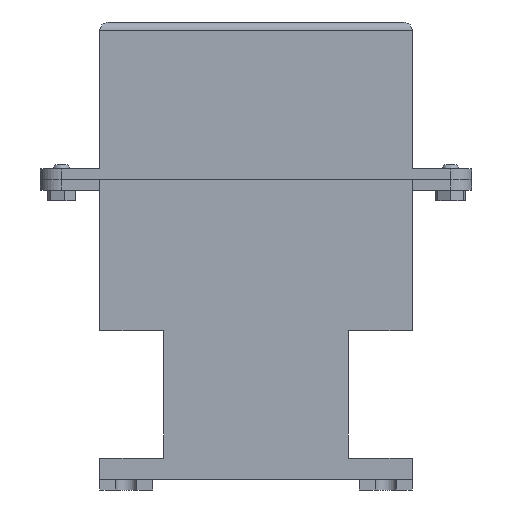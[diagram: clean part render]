
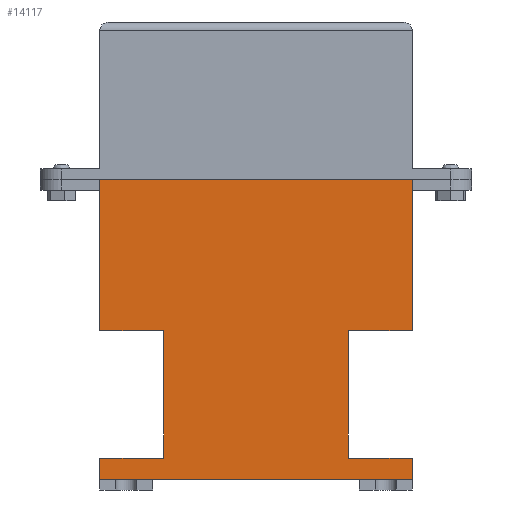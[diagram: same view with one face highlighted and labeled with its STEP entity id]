
A CAD part, left-side view. The second image highlights one B-rep face of the part: STEP entity #14117.
In plain terms, the highlighted planar face has unit normal (-1, 0, 0).
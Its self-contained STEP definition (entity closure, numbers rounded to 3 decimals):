
#1477=FACE_OUTER_BOUND('',#2281,.T.);
#2281=EDGE_LOOP('',(#11947,#11948,#11949,#11950,#11951,#11952,#11953,#11954,
#11955,#11956,#11957,#11958));
#3498=LINE('',#24178,#4982);
#3513=LINE('',#24214,#4997);
#3519=LINE('',#24226,#5003);
#3529=LINE('',#24242,#5013);
#3534=LINE('',#24253,#5018);
#3537=LINE('',#24258,#5021);
#3571=LINE('',#24341,#5055);
#3572=LINE('',#24344,#5056);
#3574=LINE('',#24347,#5058);
#3575=LINE('',#24349,#5059);
#3577=LINE('',#24353,#5061);
#3578=LINE('',#24355,#5062);
#4982=VECTOR('',#16767,10.);
#4997=VECTOR('',#16792,10.);
#5003=VECTOR('',#16802,10.);
#5013=VECTOR('',#16814,10.);
#5018=VECTOR('',#16823,10.);
#5021=VECTOR('',#16828,10.);
#5055=VECTOR('',#16924,10.);
#5056=VECTOR('',#16927,10.);
#5058=VECTOR('',#16931,10.);
#5059=VECTOR('',#16934,10.);
#5061=VECTOR('',#16938,10.);
#5062=VECTOR('',#16941,10.);
#6451=VERTEX_POINT('',#24175);
#6452=VERTEX_POINT('',#24177);
#6467=VERTEX_POINT('',#24211);
#6468=VERTEX_POINT('',#24213);
#6471=VERTEX_POINT('',#24223);
#6472=VERTEX_POINT('',#24225);
#6480=VERTEX_POINT('',#24250);
#6481=VERTEX_POINT('',#24252);
#6482=VERTEX_POINT('',#24256);
#6500=VERTEX_POINT('',#24339);
#6501=VERTEX_POINT('',#24343);
#6502=VERTEX_POINT('',#24351);
#8301=EDGE_CURVE('',#6452,#6451,#3498,.T.);
#8319=EDGE_CURVE('',#6468,#6467,#3513,.T.);
#8325=EDGE_CURVE('',#6472,#6471,#3519,.T.);
#8335=EDGE_CURVE('',#6452,#6471,#3529,.T.);
#8340=EDGE_CURVE('',#6480,#6481,#3534,.T.);
#8343=EDGE_CURVE('',#6480,#6482,#3537,.T.);
#8383=EDGE_CURVE('',#6451,#6500,#3571,.T.);
#8384=EDGE_CURVE('',#6501,#6468,#3572,.T.);
#8386=EDGE_CURVE('',#6500,#6501,#3574,.T.);
#8387=EDGE_CURVE('',#6482,#6472,#3575,.T.);
#8389=EDGE_CURVE('',#6467,#6502,#3577,.T.);
#8390=EDGE_CURVE('',#6481,#6502,#3578,.T.);
#11947=ORIENTED_EDGE('',*,*,#8386,.T.);
#11948=ORIENTED_EDGE('',*,*,#8384,.T.);
#11949=ORIENTED_EDGE('',*,*,#8319,.T.);
#11950=ORIENTED_EDGE('',*,*,#8389,.T.);
#11951=ORIENTED_EDGE('',*,*,#8390,.F.);
#11952=ORIENTED_EDGE('',*,*,#8340,.F.);
#11953=ORIENTED_EDGE('',*,*,#8343,.T.);
#11954=ORIENTED_EDGE('',*,*,#8387,.T.);
#11955=ORIENTED_EDGE('',*,*,#8325,.T.);
#11956=ORIENTED_EDGE('',*,*,#8335,.F.);
#11957=ORIENTED_EDGE('',*,*,#8301,.T.);
#11958=ORIENTED_EDGE('',*,*,#8383,.T.);
#13319=PLANE('',#14772);
#14117=ADVANCED_FACE('',(#1477),#13319,.T.);
#14772=AXIS2_PLACEMENT_3D('',#24354,#16939,#16940);
#16767=DIRECTION('',(0.,1.,0.));
#16792=DIRECTION('',(0.,1.,0.));
#16802=DIRECTION('',(0.,-1.,0.));
#16814=DIRECTION('',(0.,0.,-1.));
#16823=DIRECTION('',(0.,0.,-1.));
#16828=DIRECTION('',(0.,1.,0.));
#16924=DIRECTION('',(0.,0.,-1.));
#16927=DIRECTION('',(0.,0.,-1.));
#16931=DIRECTION('',(0.,-1.,0.));
#16934=DIRECTION('',(0.,0.,1.));
#16938=DIRECTION('',(0.,0.,-1.));
#16939=DIRECTION('center_axis',(-1.,0.,0.));
#16940=DIRECTION('ref_axis',(0.,1.,0.));
#16941=DIRECTION('',(0.,1.,0.));
#24175=CARTESIAN_POINT('',(-10.,147.,0.));
#24177=CARTESIAN_POINT('',(-10.,0.,0.));
#24178=CARTESIAN_POINT('',(-10.,0.,0.));
#24211=CARTESIAN_POINT('',(-10.,147.,-131.));
#24213=CARTESIAN_POINT('',(-10.,117.,-131.));
#24214=CARTESIAN_POINT('',(-10.,58.5,-131.));
#24223=CARTESIAN_POINT('',(-10.,0.,-71.));
#24225=CARTESIAN_POINT('',(-10.,30.,-71.));
#24226=CARTESIAN_POINT('',(-10.,15.,-71.));
#24242=CARTESIAN_POINT('',(-10.,0.,0.));
#24250=CARTESIAN_POINT('',(-10.,0.,-131.));
#24252=CARTESIAN_POINT('',(-10.,0.,-141.));
#24253=CARTESIAN_POINT('',(-10.,0.,0.));
#24256=CARTESIAN_POINT('',(-10.,30.,-131.));
#24258=CARTESIAN_POINT('',(-10.,0.,-131.));
#24339=CARTESIAN_POINT('',(-10.,147.,-71.));
#24341=CARTESIAN_POINT('',(-10.,147.,0.));
#24343=CARTESIAN_POINT('',(-10.,117.,-71.));
#24344=CARTESIAN_POINT('',(-10.,117.,-35.5));
#24347=CARTESIAN_POINT('',(-10.,73.5,-71.));
#24349=CARTESIAN_POINT('',(-10.,30.,-65.5));
#24351=CARTESIAN_POINT('',(-10.,147.,-141.));
#24353=CARTESIAN_POINT('',(-10.,147.,0.));
#24354=CARTESIAN_POINT('Origin',(-10.,0.,0.));
#24355=CARTESIAN_POINT('',(-10.,0.,-141.));
